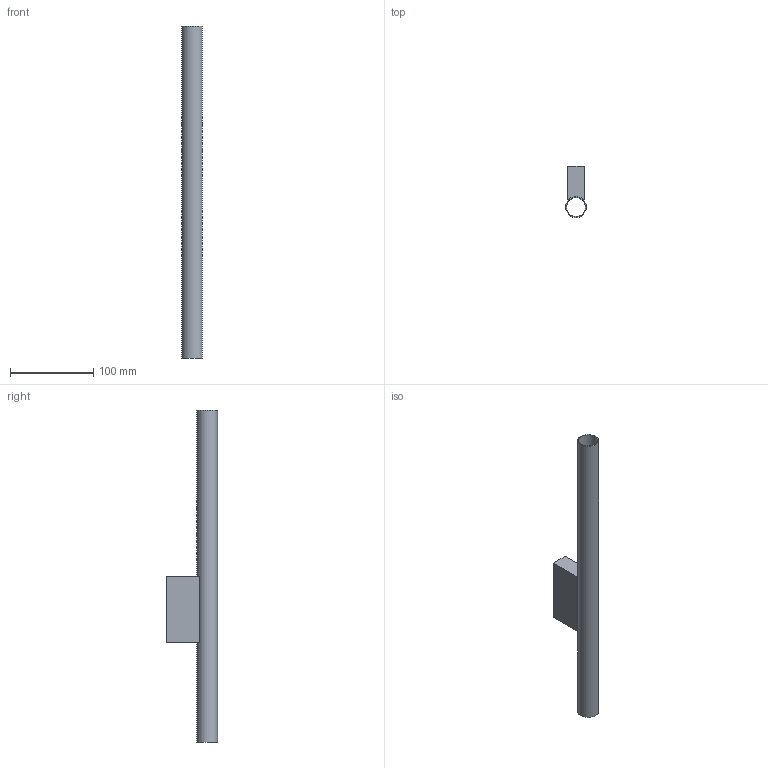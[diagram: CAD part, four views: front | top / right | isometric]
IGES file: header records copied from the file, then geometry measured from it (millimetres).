
Start section: SolidWorks IGES file using analytic representation for surfaces
Global section: file name: X:\PRODUKT\Modele 3D_WWW\_KOLEKCJE WWW\LASER-WALL-II-8308-8048-8047\8047\LASER-WALL-II-8308-8048-8047.IGS; native system: SolidWorks 2021; preprocessor: SolidWorks 2021; author: gabriela.tworek; date: 221021.125600; units: millimetre
Bounding box: 25 x 61.67 x 400 mm (x, y, z)
Surface area: 71727 mm2 (no closed solid volume)
Topology: 0 solids, 0 shells, 12 faces, 46 edges, 44 vertices
Faces by surface type: bspline 9, revolution 3
